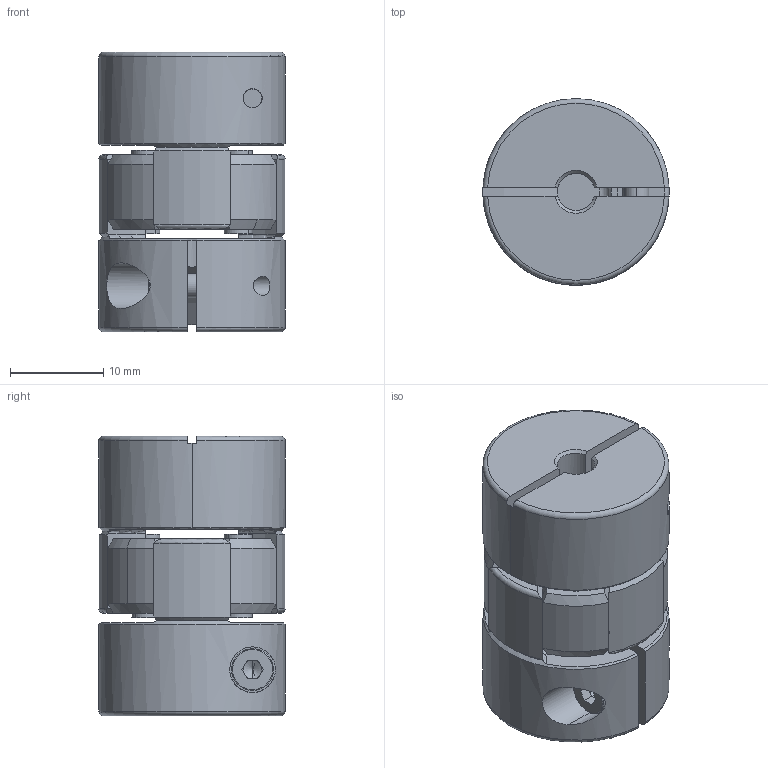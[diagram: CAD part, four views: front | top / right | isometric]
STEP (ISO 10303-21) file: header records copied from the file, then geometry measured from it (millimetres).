
FILE_DESCRIPTION (( 'STEP AP203' ), '1' );
FILE_NAME ('SJC-20C-4X8_203.STEP', '2013-02-17T06:55:59', ( 'MYCOM' ), ( '' ), 'SwSTEP 2.0', 'SolidWorks 2012', '' );
FILE_SCHEMA (( 'CONFIG_CONTROL_DESIGN' ));
Length unit declared in the file: millimetre
Products named in the file (1): SJC-20C-4X8_203
Bounding box: 20 x 20 x 30 mm (x, y, z)
Volume: 7512.5 mm3; surface area: 4815.4 mm2
Topology: 1 solids, 1 shells, 242 faces, 650 edges, 408 vertices
Faces by surface type: cylinder 79, cone 65, plane 62, torus 36
Entity records: 8161 total; most frequent: CARTESIAN_POINT 2053, ORIENTED_EDGE 1292, DIRECTION 1288, EDGE_CURVE 646, AXIS2_PLACEMENT_3D 545, VERTEX_POINT 408, CIRCLE 302, EDGE_LOOP 260
